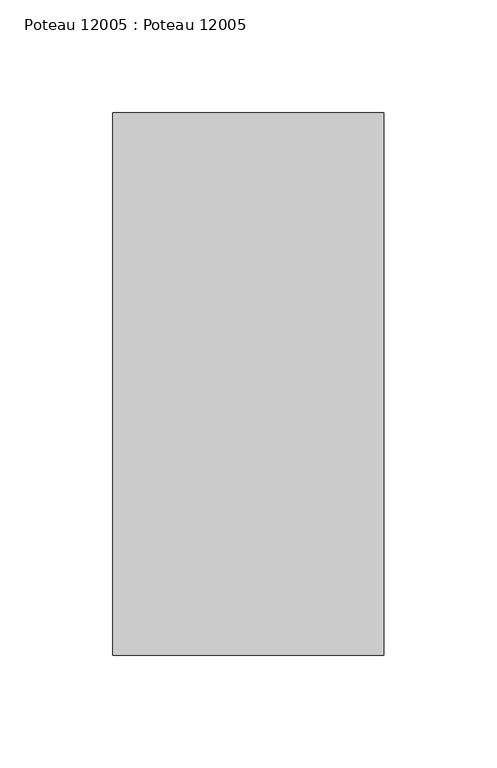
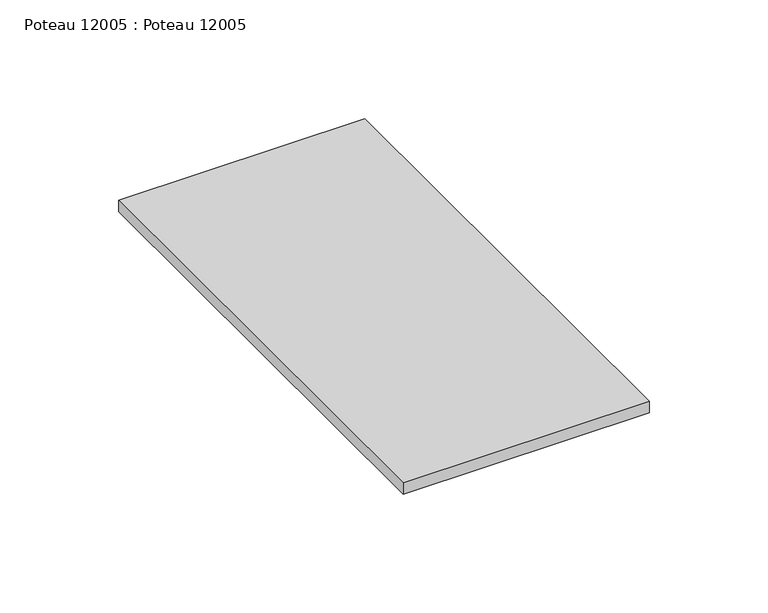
"""IFC4 building model written with IfcOpenShell, lengths in millimetres: beam geometry, Poteau 12005 : Poteau 12005."""

from ifc_helpers import new_model, si_unit, frame, origin, place, context, project, spatial, polyline, outline, extrude, source, transform, mapped, element, save


def poteau_12005_poteau_12005_e48c42bd(model_context):
    return source(origin(), model_context, "Body", "SweptSolid", [
        extrude(outline(polyline([(11557.4999999, 95.0), (11557.4999999, -145.0), (11437.4999999, -145.0), (11437.4999999, 95.0), (11557.4999999, 95.0)])), frame((0.0, 0.0, 7052.8384819), z_axis=(0.0, 0.0, 1.0), x_axis=(1.0, 0.0, 0.0)), (0.0, 0.0, 1.0), 6.0),
    ])


if __name__ == "__main__":
    model = new_model("IFC4")
    model_context = context("Model", 3, world=origin())
    ifc_project = project(units=[si_unit("LENGTHUNIT", "METRE", prefix="MILLI")], contexts=[model_context])
    site = spatial("IfcSite", under=ifc_project)
    building = spatial("IfcBuilding", under=site)
    placement = place(None, origin())
    poteau_12005_poteau_12005_shape = poteau_12005_poteau_12005_e48c42bd(model_context)
    element("IfcBeam", 1, ObjectType="Poteau 12005 : Poteau 12005", at=placement, inside=building, context=model_context, shape_type="MappedRepresentation", body=[
        mapped(poteau_12005_poteau_12005_shape, transform((0.0, 0.0, 0.0), x_axis=(1.0, 0.0, 0.0), y_axis=(0.0, 1.0, 0.0), z_axis=(0.0, 0.0, 1.0))),
    ])
    save(model, "model.ifc")
